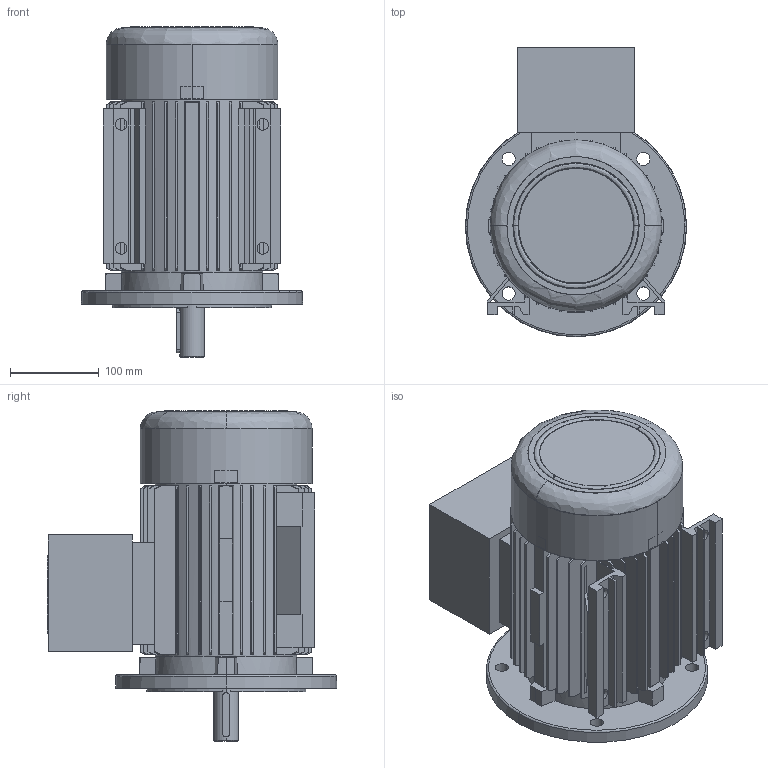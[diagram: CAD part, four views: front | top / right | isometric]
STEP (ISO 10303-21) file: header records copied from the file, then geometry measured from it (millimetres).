
FILE_DESCRIPTION (( 'STEP AP214' ), '1' );
FILE_NAME ('20.18393-E 5AT 100 B35 Exd STANDK.STEP', '2018-11-15T08:54:36', ( '' ), ( '' ), 'SwSTEP 2.0', 'SolidWorks 2018', '' );
FILE_SCHEMA (( 'AUTOMOTIVE_DESIGN' ));
Length unit declared in the file: millimetre
Products named in the file (1): 20.18393-E 5AT 100 B35 Exd STANDK
Bounding box: 249.9 x 326.95 x 373.3 mm (x, y, z)
Volume: 5312478.8 mm3; surface area: 952565.4 mm2
Topology: 3 solids, 3 shells, 737 faces, 1930 edges, 1256 vertices
Faces by surface type: plane 420, cone 151, cylinder 140, bspline 26
Entity records: 31961 total; most frequent: CARTESIAN_POINT 7714, ORIENTED_EDGE 3828, DIRECTION 3650, EDGE_CURVE 1914, AXIS2_PLACEMENT_3D 1312, VERTEX_POINT 1256, VECTOR 1026, LINE 1026
